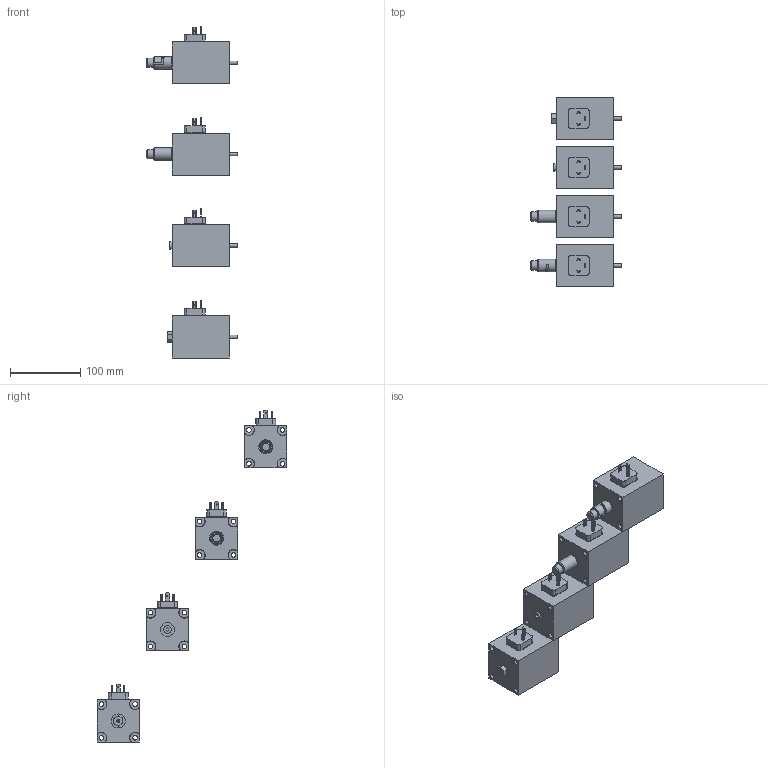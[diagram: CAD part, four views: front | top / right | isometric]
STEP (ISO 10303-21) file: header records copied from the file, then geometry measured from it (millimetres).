
FILE_DESCRIPTION(('Bauteilbeschreibung','HiCAD-Model','HiCAD-STEP-TRANSLATION','Bauteilbeschreibung'),'2;1');
FILE_NAME('K:/STEP_DXF/PI60V-M40.STP','2006-05-15T06:54:16+00:00',('Konstrukteur'),('Konstrukteur Firma GmbH'),'HiCAD3 V1210 STEP 1.6.2005','HiCAD3 V1210','confidential');
FILE_SCHEMA(('AUTOMOTIVE_DESIGN { 1 2 10303 214 0 1 1 1 }'));
Length unit declared in the file: millimetre
Products named in the file (29): PI60V_M40; PI60V_M40_H20; A84E5AF7; A9350B1E; DAB12417; DAB124170; DICHTUNG; A7905B34; PI60V_M40_H21; A807041F; A270342B; DAB124171; DAB124172; DICHTUNG0; A7905B340; PI60V_M40_HB0; AF7E5D0F; DAB124173; DAB124174; DICHTUNG1; A7905B341; F134825D; PI60V_M40_HB8_5; ECBF662F; DAB124175; DAB124176; DICHTUNG2; A7905B342; B4DFF981
Assembly tree (28 placements, depth 5):
  PI60V_M40
    PI60V_M40_H20
      A84E5AF7
        A9350B1E
        DAB12417
        DAB124170
          DICHTUNG
        A7905B34
    PI60V_M40_H21
      A807041F
        A270342B
        DAB124171
        DAB124172
          DICHTUNG0
        A7905B340
    PI60V_M40_HB0
      AF7E5D0F
        DAB124173
        DAB124174
          DICHTUNG1
        A7905B341
        F134825D
    PI60V_M40_HB8_5
      ECBF662F
        DAB124175
        DAB124176
          DICHTUNG2
        A7905B342
        B4DFF981
Bounding box: 130.4 x 270 x 472.5 mm (x, y, z)
Volume: 1171878.1 mm3; surface area: 165313.7 mm2
Topology: 28 solids, 28 shells, 481 faces, 1145 edges, 773 vertices
Faces by surface type: plane 277, cylinder 155, cone 42, torus 7
Full cylindrical faces by diameter (mm): 1.5 x12, 2.5 x1, 3 x12, 4.2 x1, 4.9 x4, 6 x1, 6.4 x1, 6.5 x16, 6.8 x6, 8 x8, 11 x1, 12 x4, 13 x2, 15 x4, 18 x2, 20 x4, 23.3 x4, 29.7 x4
Entity records: 23457 total; most frequent: CARTESIAN_POINT 3232, DIRECTION 2365, ORIENTED_EDGE 1972, COLOUR_RGB 1483, PRESENTATION_STYLE_ASSIGNMENT 1483, OVER_RIDING_STYLED_ITEM 1467, CURVE_STYLE 986, DRAUGHTING_PRE_DEFINED_CURVE_FONT 986
